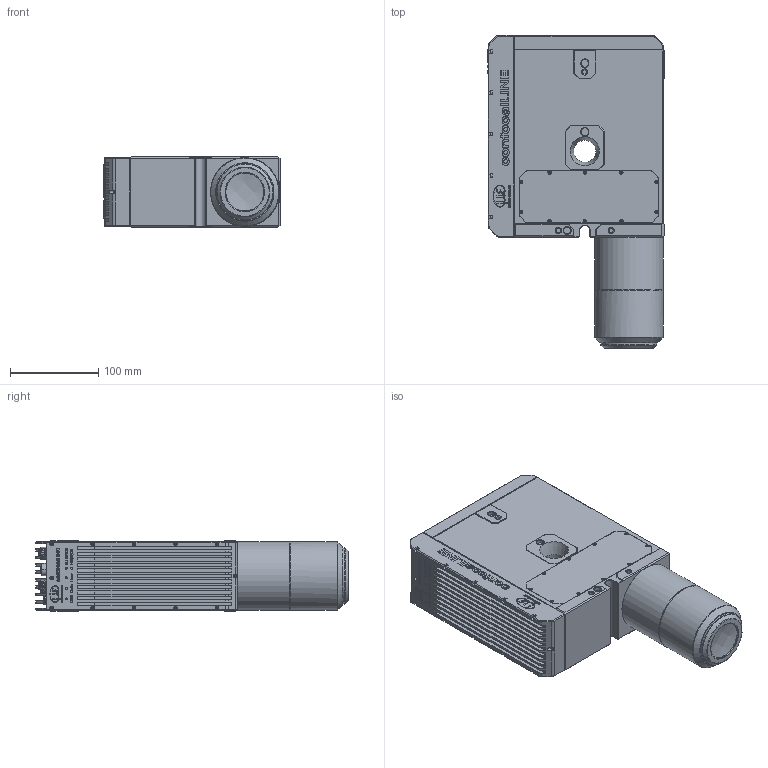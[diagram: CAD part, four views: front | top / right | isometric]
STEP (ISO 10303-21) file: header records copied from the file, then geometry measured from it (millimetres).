
FILE_DESCRIPTION (( 'STEP AP214' ), '1' );
FILE_NAME ('CLI8500-MB7.STEP', '2026-09-18T09:18:52', ( '' ), ( '' ), 'SwSTEP 2.0', 'SolidWorks 2024', '' );
FILE_SCHEMA (( 'AUTOMOTIVE_DESIGN' ));
Length unit declared in the file: millimetre
Products named in the file (1): CLI8500-MB7
Bounding box: 200 x 355.42 x 80 mm (x, y, z)
Volume: 3910952.3 mm3; surface area: 259354 mm2
Topology: 1 solids, 1 shells, 2921 faces, 7479 edges, 4843 vertices
Faces by surface type: plane 1807, bspline 541, cylinder 349, cone 168, torus 56
Full cylindrical faces by diameter (mm): 0.7 x29, 0.725 x8, 1.15 x3, 2.3 x5, 3.8 x32, 4 x10, 4.2 x1, 5 x9, 5.65 x1, 8 x3, 8.2 x1, 9.5 x1, 11 x1, 13.5 x2, 17 x3, 25 x1, 43 x1, 43.2 x1, 64 x1, 78 x2
Entity records: 154107 total; most frequent: CARTESIAN_POINT 55875, ORIENTED_EDGE 14306, DIRECTION 11798, EDGE_CURVE 7153, VECTOR 4850, LINE 4850, VERTEX_POINT 4738, AXIS2_PLACEMENT_3D 3474
